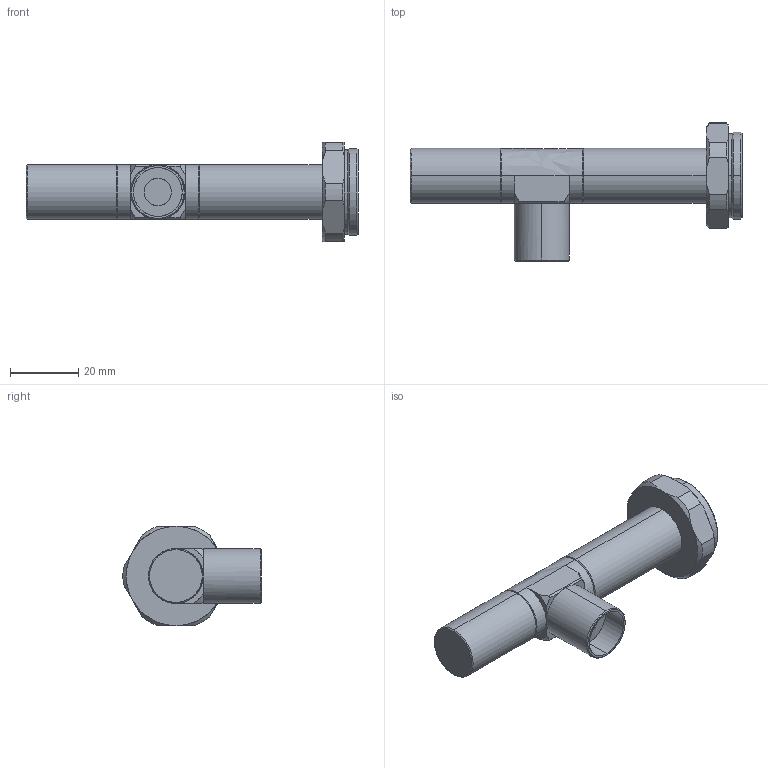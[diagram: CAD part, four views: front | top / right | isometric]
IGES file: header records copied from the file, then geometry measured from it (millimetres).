
Start section: SolidWorks IGES file using analytic representation for surfaces
Global section: file name: C:\IGES\TS-APT2X110D_Drawing_M0257E-A00100.IGS; native system: SolidWorks 2021; preprocessor: SolidWorks 2021; author: Chishima_vst; date: 230419.115457; units: millimetre
Bounding box: 96.97 x 40.38 x 29 mm (x, y, z)
Surface area: 8258.1 mm2 (no closed solid volume)
Topology: 0 solids, 0 shells, 82 faces, 812 edges, 812 vertices
Faces by surface type: revolution 57, bspline 25
